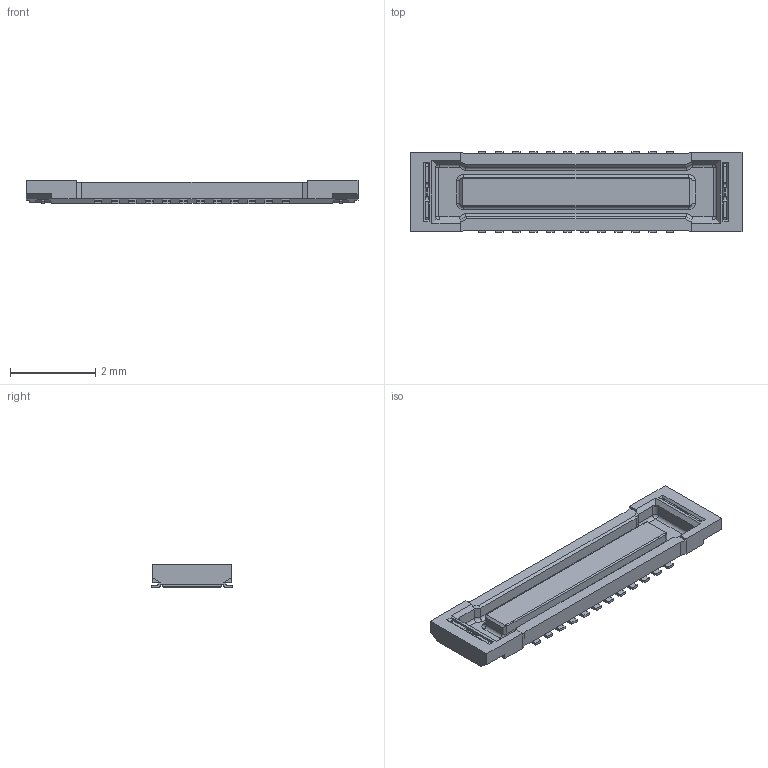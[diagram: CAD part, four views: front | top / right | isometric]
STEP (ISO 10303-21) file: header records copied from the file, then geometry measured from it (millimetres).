
FILE_DESCRIPTION(('CATIA V5 STEP Exchange'),'2;1');
FILE_NAME('D:\(編集厳禁)\3D 備用 (編集厳禁)\3D 備用5xxx拘束済み\5806-李-2 PIN変更 ●\業務用\8.20.13\112 Type\20_5806_024_112_829_+.stp','2013-08-20T01:11:56+00:00',('none'),('none'),'CATIA Version 5 Release 19 SP 8 (IN-10)','CATIA V5 STEP AP214','none');
FILE_SCHEMA(('AUTOMOTIVE_DESIGN { 1 0 10303 214 1 1 1 1 }'));
Length unit declared in the file: millimetre
Products named in the file (1): Rec_W_AP_Rev0_AllCATPart
Bounding box: 7.8 x 1.9 x 0.56 mm (x, y, z)
Volume: 4.8 mm3; surface area: 52.7 mm2
Topology: 1 solids, 1 shells, 467 faces, 1446 edges, 980 vertices
Faces by surface type: plane 353, cylinder 98, bspline 8, extrusion 4, torus 4
Entity records: 16570 total; most frequent: CARTESIAN_POINT 4890, ORIENTED_EDGE 2892, DIRECTION 1724, EDGE_CURVE 1446, VECTOR 1168, LINE 1164, VERTEX_POINT 980, EDGE_LOOP 478
